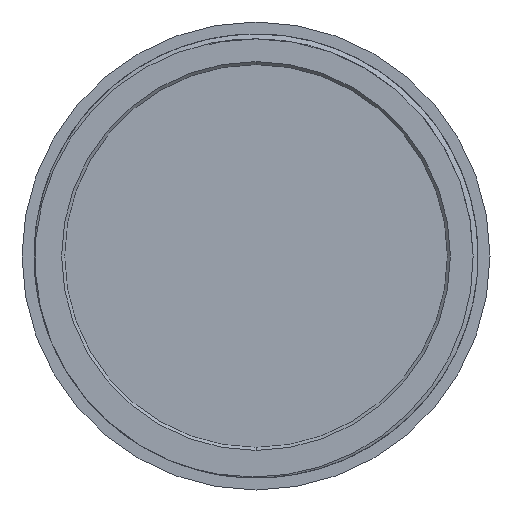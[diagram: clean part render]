
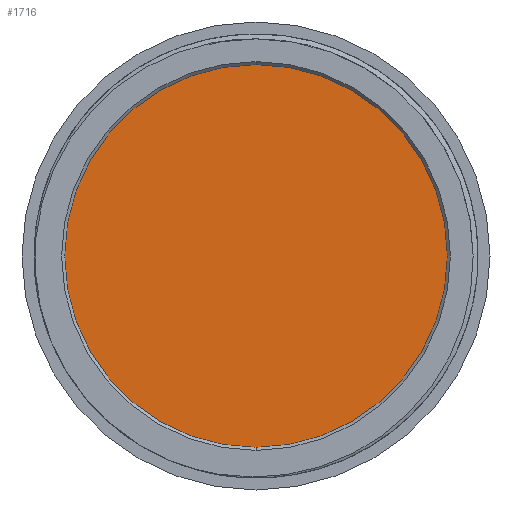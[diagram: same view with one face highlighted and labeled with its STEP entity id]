
A CAD part, front view. The second image highlights one B-rep face of the part: STEP entity #1716.
In plain terms, the highlighted planar face has unit normal (0, -1, 0).
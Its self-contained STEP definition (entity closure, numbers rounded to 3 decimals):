
#332 = CARTESIAN_POINT ( 'NONE',  ( 0., 2.5, 16.7 ) ) ;
#335 = CIRCLE ( 'NONE', #434, 16.7 ) ;
#434 = AXIS2_PLACEMENT_3D ( 'NONE', #688, #1813, #1577 ) ;
#527 = ORIENTED_EDGE ( 'NONE', *, *, #646, .F. ) ;
#646 = EDGE_CURVE ( 'NONE', #1389, #2536, #335, .T. ) ;
#688 = CARTESIAN_POINT ( 'NONE',  ( 0., 2.5, 0. ) ) ;
#754 = DIRECTION ( 'NONE',  ( 0., 1., 0. ) ) ;
#779 = DIRECTION ( 'NONE',  ( 0., 0., 1. ) ) ;
#792 = CARTESIAN_POINT ( 'NONE',  ( 0., 2.5, 0. ) ) ;
#821 = PLANE ( 'NONE',  #1467 ) ;
#916 = CARTESIAN_POINT ( 'NONE',  ( 0., 2.5, 0. ) ) ;
#985 = ORIENTED_EDGE ( 'NONE', *, *, #2011, .F. ) ;
#1389 = VERTEX_POINT ( 'NONE', #1487 ) ;
#1467 = AXIS2_PLACEMENT_3D ( 'NONE', #792, #1713, #779 ) ;
#1487 = CARTESIAN_POINT ( 'NONE',  ( 0., 2.5, -16.7 ) ) ;
#1577 = DIRECTION ( 'NONE',  ( 0., 0., 1. ) ) ;
#1635 = DIRECTION ( 'NONE',  ( 0., 0., 1. ) ) ;
#1713 = DIRECTION ( 'NONE',  ( 0., 1., 0. ) ) ;
#1716 = ADVANCED_FACE ( 'NONE', ( #2767 ), #821, .F. ) ;
#1813 = DIRECTION ( 'NONE',  ( 0., 1., 0. ) ) ;
#2011 = EDGE_CURVE ( 'NONE', #2536, #1389, #2194, .T. ) ;
#2194 = CIRCLE ( 'NONE', #2287, 16.7 ) ;
#2287 = AXIS2_PLACEMENT_3D ( 'NONE', #916, #754, #1635 ) ;
#2364 = EDGE_LOOP ( 'NONE', ( #527, #985 ) ) ;
#2536 = VERTEX_POINT ( 'NONE', #332 ) ;
#2767 = FACE_OUTER_BOUND ( 'NONE', #2364, .T. ) ;
